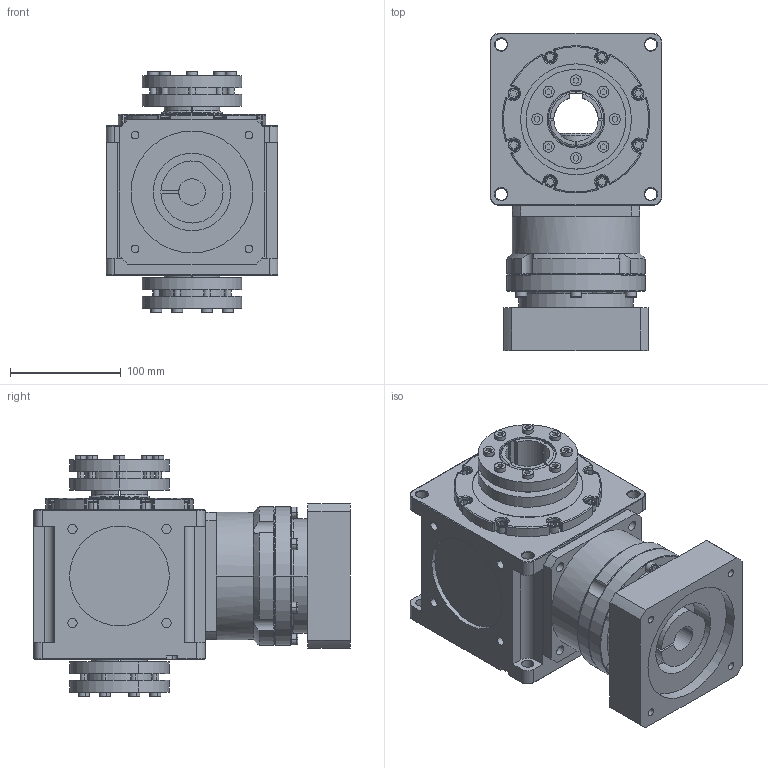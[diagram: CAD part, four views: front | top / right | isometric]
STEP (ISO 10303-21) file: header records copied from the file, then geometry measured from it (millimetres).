
FILE_DESCRIPTION (( 'STEP AP214' ), '1' );
FILE_NAME ('CCW155A-L1(6~20)-2HP-K 24-110-145-M8.STEP', '2025-05-24T07:24:12', ( '微软用户' ), ( '微软中国' ), 'SwSTEP 2.0', 'SolidWorks 2024', '' );
FILE_SCHEMA (( 'AUTOMOTIVE_DESIGN' ));
Length unit declared in the file: millimetre
Products named in the file (4): 外紧固型胀紧套[50-90]_EDO-50-90; VRB-115-L1-S2-P1 24-110-145-M8; CCW155A-002-2HP-K箱体; CCW155A-L1(6~20)-2HP-K 24-110-145-M8
Assembly tree (4 placements, depth 2):
  CCW155A-L1(6~20)-2HP-K 24-110-145-M8
    CCW155A-002-2HP-K箱体
    外紧固型胀紧套[50-90]_EDO-50-90  x2
    VRB-115-L1-S2-P1 24-110-145-M8
Bounding box: 155 x 286 x 218 mm (x, y, z)
Volume: 4766734.2 mm3; surface area: 383691.1 mm2
Topology: 4 solids, 4 shells, 954 faces, 2291 edges, 1443 vertices
Faces by surface type: plane 436, cylinder 359, torus 75, cone 68, sphere 16
Entity records: 24503 total; most frequent: CARTESIAN_POINT 4770, DIRECTION 4372, ORIENTED_EDGE 3898, EDGE_CURVE 1949, AXIS2_PLACEMENT_3D 1679, VERTEX_POINT 1227, VECTOR 1014, LINE 1014
